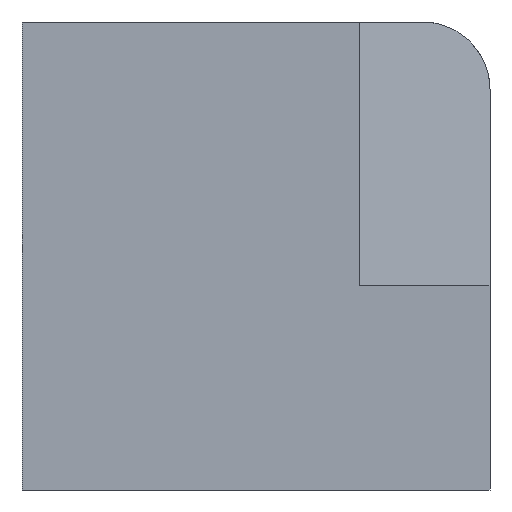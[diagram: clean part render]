
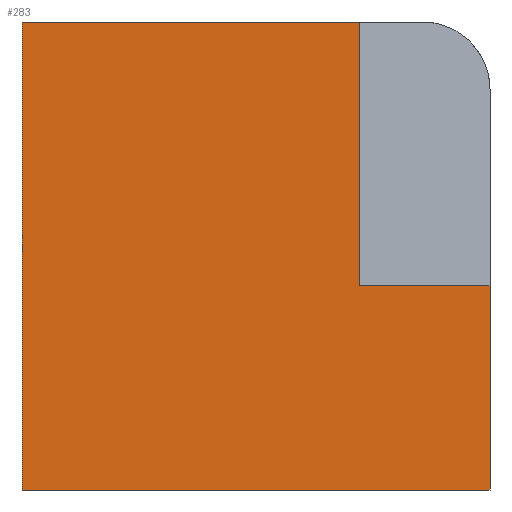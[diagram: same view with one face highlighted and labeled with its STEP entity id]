
A CAD part, left-side view. The second image highlights one B-rep face of the part: STEP entity #283.
In plain terms, the highlighted planar face has unit normal (-1, 0, 0).
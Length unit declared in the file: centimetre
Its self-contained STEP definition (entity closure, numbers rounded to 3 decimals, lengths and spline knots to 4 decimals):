
#3 = LINE ( 'NONE', #365, #20 ) ;
#7 = VERTEX_POINT ( 'NONE', #374 ) ;
#20 = VECTOR ( 'NONE', #636, 100. ) ;
#26 = EDGE_CURVE ( 'NONE', #544, #156, #591, .T. ) ;
#49 = CARTESIAN_POINT ( 'NONE',  ( 0., 1000., 0. ) ) ;
#50 = EDGE_CURVE ( 'NONE', #544, #560, #240, .T. ) ;
#69 = CARTESIAN_POINT ( 'NONE',  ( 0., 279.67, 1000. ) ) ;
#75 = VECTOR ( 'NONE', #245, 100. ) ;
#83 = EDGE_LOOP ( 'NONE', ( #676, #507, #110, #556, #192, #102 ) ) ;
#102 = ORIENTED_EDGE ( 'NONE', *, *, #317, .F. ) ;
#110 = ORIENTED_EDGE ( 'NONE', *, *, #26, .F. ) ;
#115 = EDGE_CURVE ( 'NONE', #560, #379, #559, .T. ) ;
#124 = FACE_OUTER_BOUND ( 'NONE', #83, .T. ) ;
#141 = DIRECTION ( 'NONE',  ( 0., 0., -1. ) ) ;
#156 = VERTEX_POINT ( 'NONE', #69 ) ;
#174 = VECTOR ( 'NONE', #563, 100. ) ;
#176 = DIRECTION ( 'NONE',  ( 0., 0., -1. ) ) ;
#192 = ORIENTED_EDGE ( 'NONE', *, *, #115, .T. ) ;
#200 = VERTEX_POINT ( 'NONE', #624 ) ;
#204 = DIRECTION ( 'NONE',  ( 0., 0., 1. ) ) ;
#240 = LINE ( 'NONE', #506, #367 ) ;
#245 = DIRECTION ( 'NONE',  ( 0., -1., 0. ) ) ;
#280 = LINE ( 'NONE', #287, #620 ) ;
#283 = ADVANCED_FACE ( 'NONE', ( #124 ), #391, .F. ) ;
#287 = CARTESIAN_POINT ( 'NONE',  ( 0., 0., 1000. ) ) ;
#302 = CARTESIAN_POINT ( 'NONE',  ( 0., 1000., 1000. ) ) ;
#317 = EDGE_CURVE ( 'NONE', #200, #379, #280, .T. ) ;
#350 = CARTESIAN_POINT ( 'NONE',  ( 0., 1000., 1000. ) ) ;
#365 = CARTESIAN_POINT ( 'NONE',  ( 0., 0., 436.5882 ) ) ;
#367 = VECTOR ( 'NONE', #141, 100. ) ;
#373 = EDGE_CURVE ( 'NONE', #7, #156, #610, .T. ) ;
#374 = CARTESIAN_POINT ( 'NONE',  ( 0., 279.67, 436.5882 ) ) ;
#375 = CARTESIAN_POINT ( 'NONE',  ( 0., 1000., 1000. ) ) ;
#379 = VERTEX_POINT ( 'NONE', #410 ) ;
#383 = DIRECTION ( 'NONE',  ( 1., 0., 0. ) ) ;
#391 = PLANE ( 'NONE',  #407 ) ;
#394 = CARTESIAN_POINT ( 'NONE',  ( 0., 1000., 0. ) ) ;
#407 = AXIS2_PLACEMENT_3D ( 'NONE', #350, #383, #176 ) ;
#410 = CARTESIAN_POINT ( 'NONE',  ( 0., 0., 0. ) ) ;
#446 = CARTESIAN_POINT ( 'NONE',  ( 0., 279.67, 436.5882 ) ) ;
#491 = DIRECTION ( 'NONE',  ( 0., 0., -1. ) ) ;
#506 = CARTESIAN_POINT ( 'NONE',  ( 0., 1000., 1000. ) ) ;
#507 = ORIENTED_EDGE ( 'NONE', *, *, #373, .T. ) ;
#522 = EDGE_CURVE ( 'NONE', #7, #200, #3, .T. ) ;
#544 = VERTEX_POINT ( 'NONE', #375 ) ;
#556 = ORIENTED_EDGE ( 'NONE', *, *, #50, .T. ) ;
#559 = LINE ( 'NONE', #394, #174 ) ;
#560 = VERTEX_POINT ( 'NONE', #49 ) ;
#563 = DIRECTION ( 'NONE',  ( 0., -1., 0. ) ) ;
#565 = VECTOR ( 'NONE', #204, 100. ) ;
#591 = LINE ( 'NONE', #302, #75 ) ;
#610 = LINE ( 'NONE', #446, #565 ) ;
#620 = VECTOR ( 'NONE', #491, 100. ) ;
#624 = CARTESIAN_POINT ( 'NONE',  ( 0., 0., 436.5882 ) ) ;
#636 = DIRECTION ( 'NONE',  ( 0., -1., 0. ) ) ;
#676 = ORIENTED_EDGE ( 'NONE', *, *, #522, .F. ) ;
